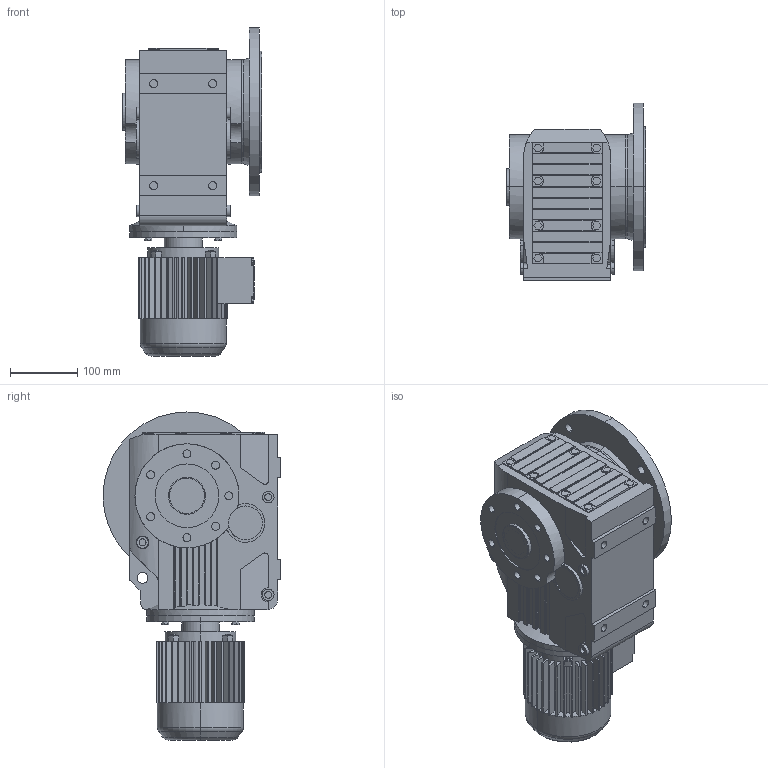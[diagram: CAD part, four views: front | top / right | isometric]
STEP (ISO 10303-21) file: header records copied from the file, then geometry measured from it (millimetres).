
FILE_DESCRIPTION(('Open CASCADE Model'),'2;1');
FILE_NAME('Open CASCADE Shape Model','2018-09-10T10:39:09',('Author'),( 'Open CASCADE'),'Open CASCADE STEP processor 6.3','Open CASCADE 6.3' ,'Unknown');
FILE_SCHEMA(('AUTOMOTIVE_DESIGN_CC2 { 1 2 10303 214 -1 1 5 4 }'));
Length unit declared in the file: millimetre
Products named in the file (5): 41_KAF67DR63-A; KA37‵107_67.step; 萇儂_160-DR63-185-240-132-105.step; す瑩諾陑粣K_67.step; 楊擘K_67.step
Assembly tree (4 placements, depth 2):
  41_KAF67DR63-A
    KA37‵107_67.step
    萇儂_160-DR63-185-240-132-105.step
    す瑩諾陑粣K_67.step
    楊擘K_67.step
Bounding box: 207.9 x 265 x 489 mm (x, y, z)
Volume: 10733804.8 mm3; surface area: 700928.4 mm2
Topology: 4 solids, 4 shells, 874 faces, 2270 edges, 1475 vertices
Faces by surface type: plane 566, cylinder 294, cone 10, torus 4
Entity records: 64985 total; most frequent: CARTESIAN_POINT 22415, DIRECTION 7121, ORIENTED_EDGE 4540, PCURVE 4540, DEFINITIONAL_REPRESENTATION 4540, LINE 3663, VECTOR 3663, EDGE_CURVE 2270
